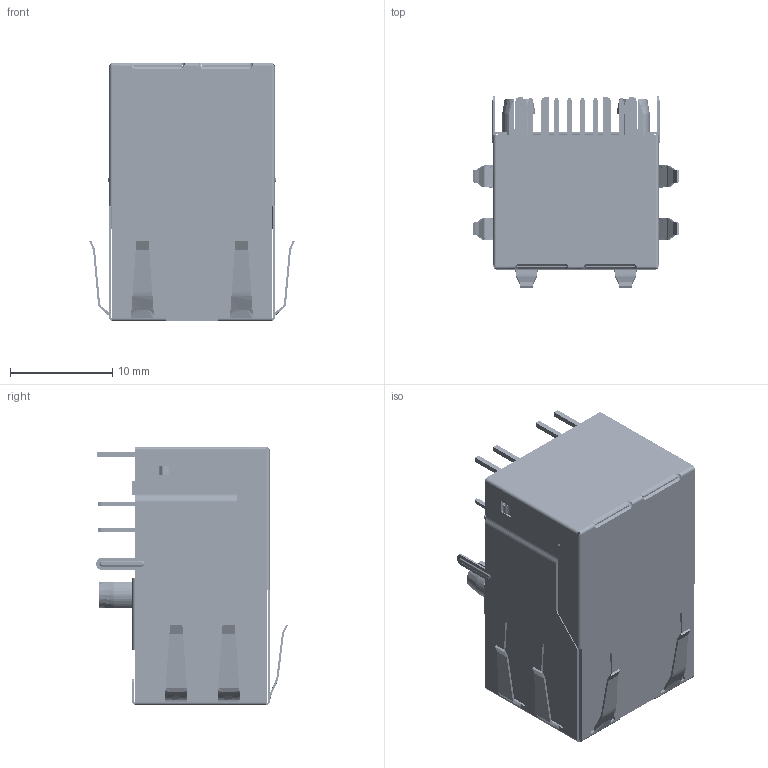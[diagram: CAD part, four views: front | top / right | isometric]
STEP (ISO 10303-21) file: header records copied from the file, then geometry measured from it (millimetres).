
FILE_DESCRIPTION((''),'2;1');
FILE_NAME('_25_4MM_ASM','2019-10-28T',('Administrator'),(''),'PRO/ENGINEER BY PARAMETRIC TECHNOLOGY CORPORATION, 2008380','PRO/ENGINEER BY PARAMETRIC TECHNOLOGY CORPORATION, 2008380','');
FILE_SCHEMA(('CONFIG_CONTROL_DESIGN'));
Length unit declared in the file: millimetre
Products named in the file (27): 25_4MM000_1-12790; 100_1; 200_1; 300_1; 400_1; 500_1; 600_1; 700_1; 800_1; MANIFOLD_SOLID_BREP_24459; MANIFOLD_SOLID_BREP_25855; 0_1_ASM; 000_1-29533; MANIFOLD_SOLID_BREP_29919; MANIFOLD_SOLID_BREP_62507; _000_1-64624; 000_1-64624_ASM; MANIFOLD_SOLID_BREP_65038; MANIFOLD_SOLID_BREP_88296; _2000_1; 2000_1_ASM; 25_4MM000_1-95987; LED0_1; LED2_1; 25_4MM1X10001_1; 25_4MM0_ASM_1_ASM; _25_4MM_ASM
Assembly tree (36 placements, depth 4):
  _25_4MM_ASM
    25_4MM0_ASM_1_ASM
      25_4MM000_1-12790
      100_1
      200_1
      300_1
      400_1
      500_1
      600_1
      700_1
      800_1
      0_1_ASM  x5
        MANIFOLD_SOLID_BREP_24459
        MANIFOLD_SOLID_BREP_25855
      000_1-29533
      000_1-64624_ASM  x4
        MANIFOLD_SOLID_BREP_29919
        MANIFOLD_SOLID_BREP_62507
        _000_1-64624
      2000_1_ASM  x4
        MANIFOLD_SOLID_BREP_65038
        MANIFOLD_SOLID_BREP_88296
        _2000_1
      25_4MM000_1-95987
      LED0_1
      LED2_1
      25_4MM1X10001_1
Bounding box: 20.12 x 18.8 x 25.3 mm (x, y, z)
Volume: 2919.9 mm3; surface area: 9781.4 mm2
Topology: 40 solids, 53 shells, 3628 faces, 9533 edges, 5924 vertices
Faces by surface type: bspline 1528, plane 1459, cylinder 363, torus 232, extrusion 32, sphere 10, cone 4
Entity records: 165178 total; most frequent: CARTESIAN_POINT 117405, ORIENTED_EDGE 10782, DIRECTION 8345, EDGE_CURVE 5399, VECTOR 3557, LINE 3525, VERTEX_POINT 3456, AXIS2_PLACEMENT_3D 2394
